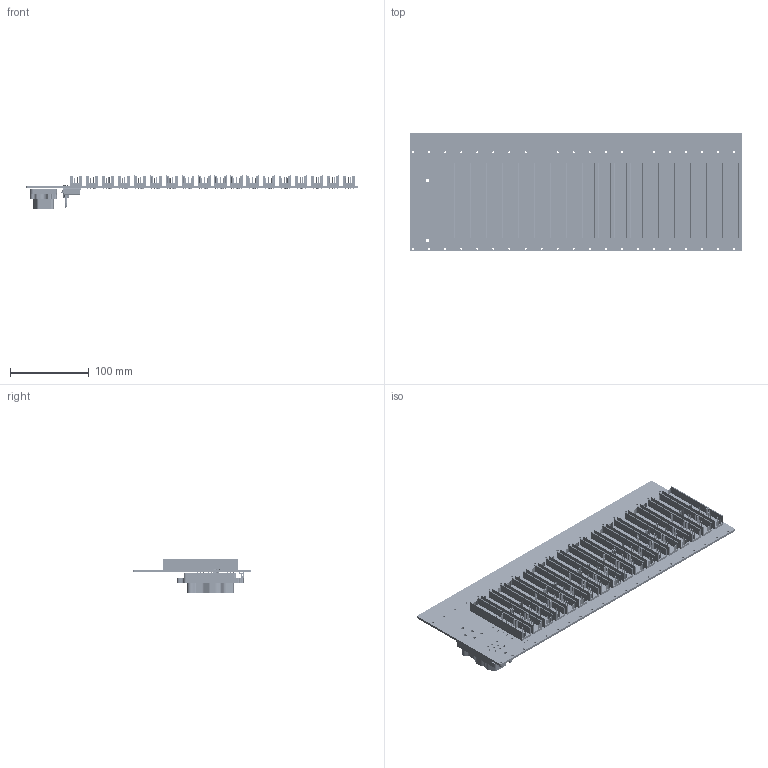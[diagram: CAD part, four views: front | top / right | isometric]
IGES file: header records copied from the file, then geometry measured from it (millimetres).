
Start section:  PTC IGES file: cu_pxi-1045_backplane.igs
Global section: file name: cu_pxi-1045_backplane.igs; native system: Pro/ENGINEER by Parametric Technology Corporation; preprocessor: 2011490; author: gvillanu; organization: Unknown; date: 20130115.111237; units: inch
Bounding box: 420.65 x 150.27 x 42.46 mm (x, y, z)
Surface area: 279047.6 mm2 (no closed solid volume)
Topology: 0 solids, 0 shells, 5570 faces, 24256 edges, 24256 vertices
Faces by surface type: revolution 3197, bspline 2373
